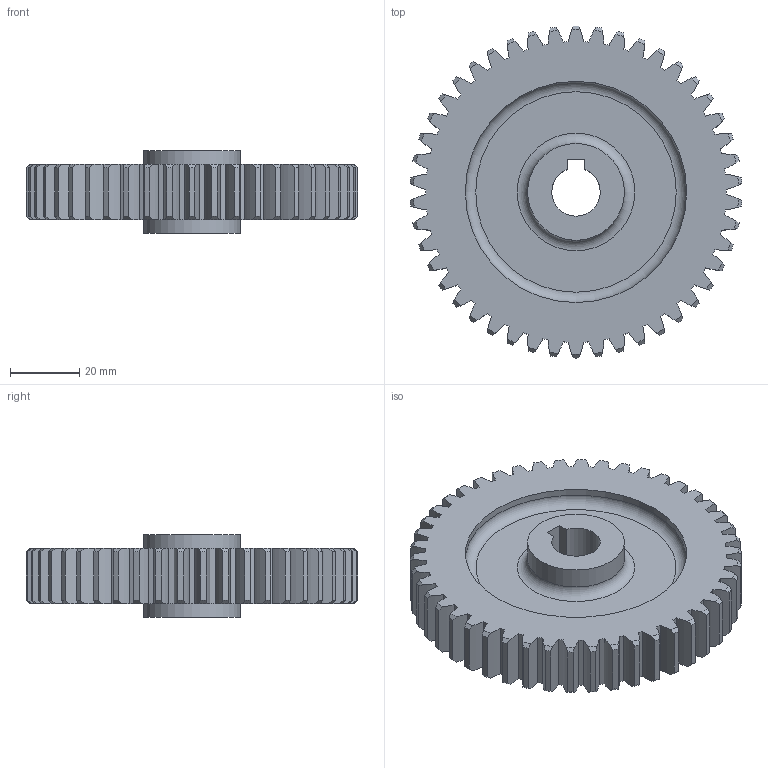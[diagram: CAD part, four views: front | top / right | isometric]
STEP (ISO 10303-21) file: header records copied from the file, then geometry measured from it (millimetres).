
FILE_DESCRIPTION(/* description */ (''),/* implementation_level */ '2;1');
FILE_NAME(/* name */ '',/* time_stamp */ '2025-01-06T15:39:27+09:00',/* author */ ('jhkim'),/* organization */ (''),/* preprocessor_version */ 'ST-DEVELOPER v20',/* originating_system */ 'Autodesk Inventor 2025',/* authorisation */ '');
FILE_SCHEMA (('AUTOMOTIVE_DESIGN { 1 0 10303 214 3 1 1 }'));
Length unit declared in the file: millimetre
Products named in the file (1): 스퍼기어A
Bounding box: 95.87 x 96 x 24 mm (x, y, z)
Volume: 81420.6 mm3; surface area: 26075.6 mm2
Topology: 1 solids, 1 shells, 297 faces, 873 edges, 582 vertices
Faces by surface type: cylinder 190, cone 93, plane 10, torus 4
Full cylindrical faces by diameter (mm): 28 x2, 64 x2
Entity records: 10381 total; most frequent: CARTESIAN_POINT 2309, DIRECTION 1768, ORIENTED_EDGE 1746, EDGE_CURVE 873, AXIS2_PLACEMENT_3D 783, VERTEX_POINT 582, CIRCLE 485, EDGE_LOOP 303
